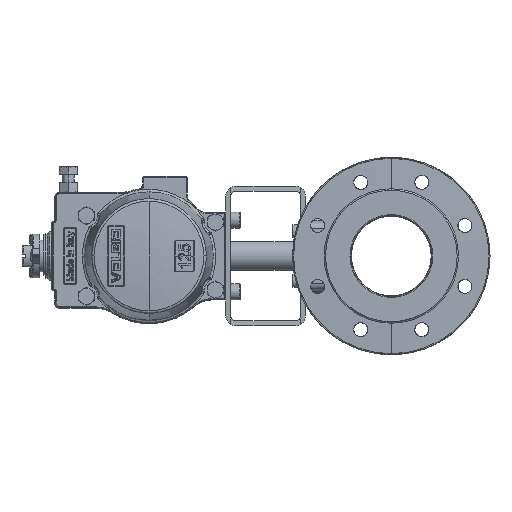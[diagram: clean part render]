
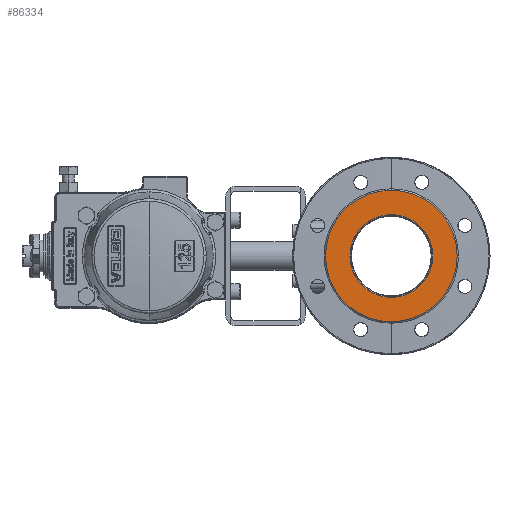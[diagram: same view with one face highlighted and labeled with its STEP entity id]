
A CAD part, left-side view. The second image highlights one B-rep face of the part: STEP entity #86334.
In plain terms, the highlighted planar face has unit normal (-1, 0, 0).
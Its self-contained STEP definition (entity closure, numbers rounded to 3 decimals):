
#3095 = DIRECTION ( 'NONE',  ( -1., 0., 0. ) ) ;
#3149 = EDGE_CURVE ( 'NONE', #67693, #13868, #65051, .T. ) ;
#7876 = CIRCLE ( 'NONE', #86570, 41.5 ) ;
#8601 = EDGE_LOOP ( 'NONE', ( #70624, #105204 ) ) ;
#10807 = AXIS2_PLACEMENT_3D ( 'NONE', #63783, #138817, #74539 ) ;
#11534 = FACE_OUTER_BOUND ( 'NONE', #8601, .T. ) ;
#13868 = VERTEX_POINT ( 'NONE', #15654 ) ;
#14953 = CARTESIAN_POINT ( 'NONE',  ( -114., 0., 0. ) ) ;
#15654 = CARTESIAN_POINT ( 'NONE',  ( -114., 0., 66. ) ) ;
#24126 = CARTESIAN_POINT ( 'NONE',  ( -114., 41.5, 0. ) ) ;
#25740 = DIRECTION ( 'NONE',  ( 0., 1., 0. ) ) ;
#26496 = AXIS2_PLACEMENT_3D ( 'NONE', #67380, #3095, #78168 ) ;
#32300 = CARTESIAN_POINT ( 'NONE',  ( -114., 0., 0. ) ) ;
#32619 = DIRECTION ( 'NONE',  ( 1., 0., 0. ) ) ;
#34905 = EDGE_LOOP ( 'NONE', ( #110071, #123900 ) ) ;
#43045 = DIRECTION ( 'NONE',  ( 0., 0., 1. ) ) ;
#53689 = EDGE_CURVE ( 'NONE', #13868, #67693, #134394, .T. ) ;
#63783 = CARTESIAN_POINT ( 'NONE',  ( -114., 0., 0. ) ) ;
#65051 = CIRCLE ( 'NONE', #96777, 66. ) ;
#67380 = CARTESIAN_POINT ( 'NONE',  ( -114., 0., 0. ) ) ;
#67693 = VERTEX_POINT ( 'NONE', #101177 ) ;
#70624 = ORIENTED_EDGE ( 'NONE', *, *, #53689, .T. ) ;
#74539 = DIRECTION ( 'NONE',  ( 0., 1., 0. ) ) ;
#78168 = DIRECTION ( 'NONE',  ( 0., 0., 1. ) ) ;
#79952 = VERTEX_POINT ( 'NONE', #24126 ) ;
#86334 = ADVANCED_FACE ( 'NONE', ( #125704, #11534 ), #117909, .F. ) ;
#86570 = AXIS2_PLACEMENT_3D ( 'NONE', #14953, #89986, #25740 ) ;
#89986 = DIRECTION ( 'NONE',  ( -1., 0., 0. ) ) ;
#96777 = AXIS2_PLACEMENT_3D ( 'NONE', #32300, #107250, #43045 ) ;
#96806 = CARTESIAN_POINT ( 'NONE',  ( -114., -66.792, 66.792 ) ) ;
#101177 = CARTESIAN_POINT ( 'NONE',  ( -114., 0., -66. ) ) ;
#105204 = ORIENTED_EDGE ( 'NONE', *, *, #3149, .T. ) ;
#105406 = EDGE_CURVE ( 'NONE', #130250, #79952, #138019, .T. ) ;
#106366 = CARTESIAN_POINT ( 'NONE',  ( -114., -41.5, 0. ) ) ;
#107250 = DIRECTION ( 'NONE',  ( -1., 0., 0. ) ) ;
#107576 = DIRECTION ( 'NONE',  ( 0., 0., -1. ) ) ;
#110071 = ORIENTED_EDGE ( 'NONE', *, *, #128650, .F. ) ;
#113103 = AXIS2_PLACEMENT_3D ( 'NONE', #96806, #32619, #107576 ) ;
#117909 = PLANE ( 'NONE',  #113103 ) ;
#123900 = ORIENTED_EDGE ( 'NONE', *, *, #105406, .F. ) ;
#125704 = FACE_BOUND ( 'NONE', #34905, .T. ) ;
#128650 = EDGE_CURVE ( 'NONE', #79952, #130250, #7876, .T. ) ;
#130250 = VERTEX_POINT ( 'NONE', #106366 ) ;
#134394 = CIRCLE ( 'NONE', #26496, 66. ) ;
#138019 = CIRCLE ( 'NONE', #10807, 41.5 ) ;
#138817 = DIRECTION ( 'NONE',  ( -1., 0., 0. ) ) ;
